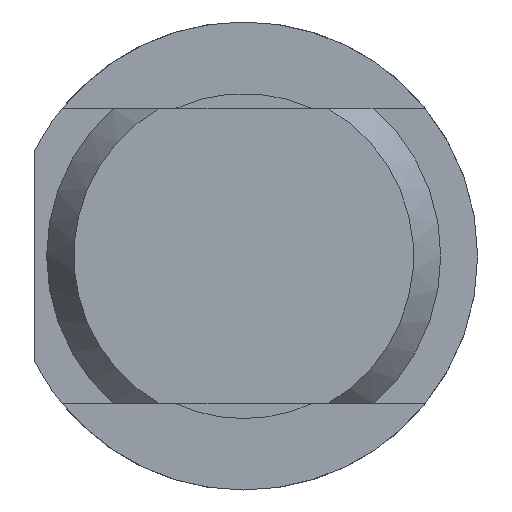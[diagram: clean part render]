
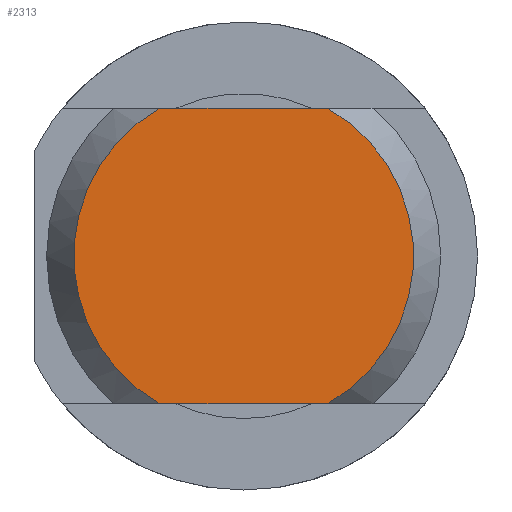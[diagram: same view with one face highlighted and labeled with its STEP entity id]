
A CAD part, left-side view. The second image highlights one B-rep face of the part: STEP entity #2313.
In plain terms, the highlighted planar face has unit normal (-1, 0, 0).
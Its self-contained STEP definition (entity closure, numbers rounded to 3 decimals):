
#307 = EDGE_LOOP ( 'NONE', ( #2562, #1287, #641, #2088 ) ) ;
#367 = AXIS2_PLACEMENT_3D ( 'NONE', #2813, #2868, #870 ) ;
#384 = CIRCLE ( 'NONE', #367, 6.9 ) ;
#422 = DIRECTION ( 'NONE',  ( 0., 0., 1. ) ) ;
#472 = CARTESIAN_POINT ( 'NONE',  ( -98.241, 8.5, 6. ) ) ;
#502 = EDGE_CURVE ( 'NONE', #2262, #1176, #1919, .T. ) ;
#641 = ORIENTED_EDGE ( 'NONE', *, *, #502, .T. ) ;
#719 = CARTESIAN_POINT ( 'NONE',  ( -98.241, -3.407, 6. ) ) ;
#737 = AXIS2_PLACEMENT_3D ( 'NONE', #4181, #2902, #3778 ) ;
#830 = PLANE ( 'NONE',  #4603 ) ;
#870 = DIRECTION ( 'NONE',  ( 0., 0., -1. ) ) ;
#1176 = VERTEX_POINT ( 'NONE', #4402 ) ;
#1281 = DIRECTION ( 'NONE',  ( -1., 0., 0. ) ) ;
#1287 = ORIENTED_EDGE ( 'NONE', *, *, #3812, .T. ) ;
#1656 = VECTOR ( 'NONE', #3589, 1000. ) ;
#1692 = VERTEX_POINT ( 'NONE', #2809 ) ;
#1919 = LINE ( 'NONE', #4085, #1656 ) ;
#2088 = ORIENTED_EDGE ( 'NONE', *, *, #2179, .F. ) ;
#2179 = EDGE_CURVE ( 'NONE', #4580, #1176, #4057, .T. ) ;
#2262 = VERTEX_POINT ( 'NONE', #4381 ) ;
#2313 = ADVANCED_FACE ( 'NONE', ( #2503 ), #830, .T. ) ;
#2390 = VECTOR ( 'NONE', #3286, 1000. ) ;
#2503 = FACE_OUTER_BOUND ( 'NONE', #307, .T. ) ;
#2562 = ORIENTED_EDGE ( 'NONE', *, *, #5037, .T. ) ;
#2809 = CARTESIAN_POINT ( 'NONE',  ( -98.241, 3.407, 6. ) ) ;
#2813 = CARTESIAN_POINT ( 'NONE',  ( -98.241, 0., 0. ) ) ;
#2868 = DIRECTION ( 'NONE',  ( -1., 0., 0. ) ) ;
#2902 = DIRECTION ( 'NONE',  ( 1., 0., 0. ) ) ;
#3286 = DIRECTION ( 'NONE',  ( 0., 1., 0. ) ) ;
#3470 = LINE ( 'NONE', #472, #2390 ) ;
#3589 = DIRECTION ( 'NONE',  ( 0., -1., 0. ) ) ;
#3697 = CARTESIAN_POINT ( 'NONE',  ( -98.241, 0., 0. ) ) ;
#3778 = DIRECTION ( 'NONE',  ( 0., 0., -1. ) ) ;
#3812 = EDGE_CURVE ( 'NONE', #1692, #2262, #384, .T. ) ;
#4057 = CIRCLE ( 'NONE', #737, 6.9 ) ;
#4085 = CARTESIAN_POINT ( 'NONE',  ( -98.241, 8.5, -6. ) ) ;
#4181 = CARTESIAN_POINT ( 'NONE',  ( -98.241, 0., 0. ) ) ;
#4381 = CARTESIAN_POINT ( 'NONE',  ( -98.241, 3.407, -6. ) ) ;
#4402 = CARTESIAN_POINT ( 'NONE',  ( -98.241, -3.407, -6. ) ) ;
#4580 = VERTEX_POINT ( 'NONE', #719 ) ;
#4603 = AXIS2_PLACEMENT_3D ( 'NONE', #3697, #1281, #422 ) ;
#5037 = EDGE_CURVE ( 'NONE', #4580, #1692, #3470, .T. ) ;
